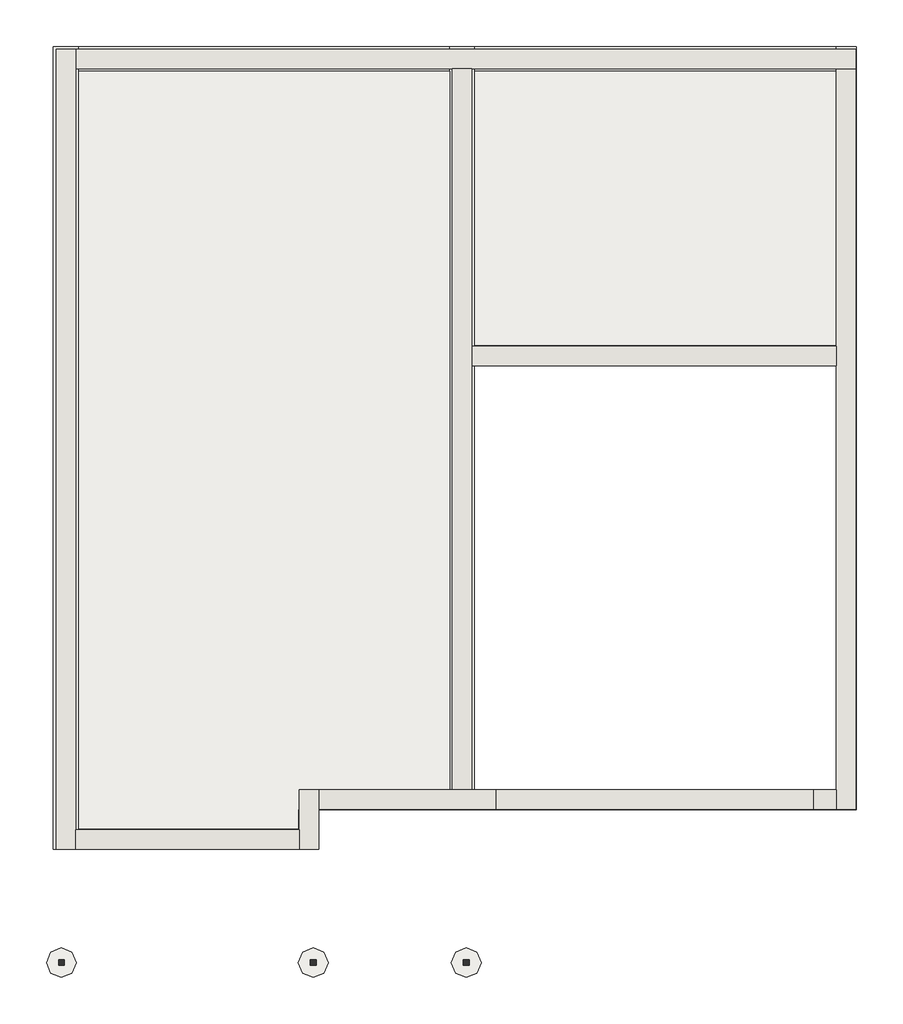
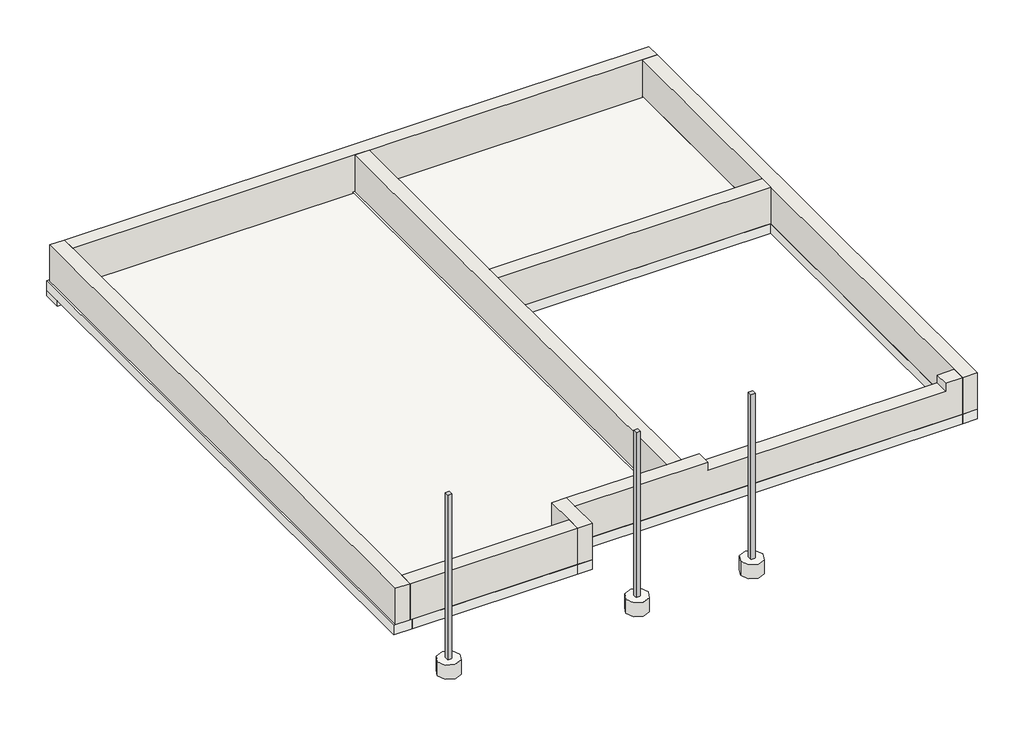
# One storey: 8 footings, 8 walls, 5 slabs, 3 columns.
"""IFC4 building model written with IfcOpenShell, lengths in millimetres."""

from ifc_helpers import new_model, si_unit, frame, origin, place, context, project, spatial, polyline, outline, extrude, faceted_brep, transform, mapped, element, save
from components import rectangular_column_350x350_lgs_51815f61, slab_1e07954e

model = new_model("IFC4")

# Units and contexts
model_context = context("Model", 3, world=origin())
ifc_project = project(units=[si_unit("LENGTHUNIT", "METRE", prefix="MILLI")], contexts=[model_context])

# Site, building, storey
site = spatial("IfcSite", under=ifc_project)
building = spatial("IfcBuilding", under=site)
storey = spatial("IfcBuildingStorey", under=building, Name="T.O. Rat Slab", Elevation=-815.975)

# Columns
placement = place(None, origin())
rectangular_column_350x350_lgs_shape = rectangular_column_350x350_lgs_51815f61(model_context)
element("IfcColumn", 1, ObjectType="Rectangular Column : 350x350 LGS", at=placement, inside=storey, context=model_context, shape_type="MappedRepresentation", body=[
    mapped(rectangular_column_350x350_lgs_shape, transform((-15219.4913349, 35.052221, 0.0), x_axis=(1.0, 0.0, 0.0), y_axis=(0.0, 1.0, 0.0), z_axis=(0.0, 0.0, 1.0))),
])
element("IfcColumn", 2, ObjectType="Rectangular Column : 350x350 LGS", at=placement, inside=storey, context=model_context, shape_type="MappedRepresentation", body=[
    mapped(rectangular_column_350x350_lgs_shape, transform((-11358.6913349, 35.052221, 0.0), x_axis=(1.0, 0.0, 0.0), y_axis=(0.0, 1.0, 0.0), z_axis=(0.0, 0.0, 1.0))),
])
element("IfcColumn", 3, ObjectType="Rectangular Column : 350x350 LGS", at=placement, inside=storey, context=model_context, shape_type="MappedRepresentation", body=[
    mapped(rectangular_column_350x350_lgs_shape, transform((-9009.1913349, 35.052221, 0.0), x_axis=(1.0, 0.0, 0.0), y_axis=(0.0, 1.0, 0.0), z_axis=(0.0, 0.0, 1.0))),
])

# Footings
element("IfcFooting", 4, ObjectType="FTG_12x8_01", at=placement, inside=storey, context=model_context, shape_type="Brep", body=[
    faceted_brep([(-3030.6663349, 2381.377221, -815.975), (-3030.6663349, 14084.427221, -815.975), (-3335.4663349, 14084.427221, -815.975), (-3335.4663349, 13703.427221, -815.975), (-3335.4663349, 9493.377221, -815.975), (-3335.4663349, 9188.577221, -815.975), (-3335.4663349, 2686.177221, -815.975), (-3335.4663349, 2381.377221, -815.975), (-3030.6663349, 2381.377221, -1019.175), (-3030.6663349, 13703.427221, -1019.175), (-3030.6663349, 13703.427221, -937.5185028), (-3030.6663349, 14084.427221, -937.5185028), (-3335.4663349, 2381.377221, -1019.175), (-3335.4663349, 2686.177221, -1019.175), (-3335.4663349, 9188.577221, -1019.175), (-3335.4663349, 9493.377221, -1019.175), (-3335.4663349, 13703.427221, -1019.175), (-3335.4663349, 14084.427221, -937.5185028), (-3335.4663349, 13703.427221, -937.5185028)], [[[0, 1, 2, 3, 4, 5, 6, 7]], [[1, 0, 8, 9, 10, 11]], [[8, 12, 13, 14, 15, 16, 9]], [[7, 6, 5, 4, 3, 2, 17, 18, 16, 15, 14, 13, 12]], [[2, 1, 11, 17]], [[10, 18, 17, 11]], [[18, 10, 9, 16]], [[0, 7, 12, 8]]]),
])
element("IfcFooting", 5, ObjectType="FTG_12x8_01", at=placement, inside=storey, context=model_context, shape_type="Brep", body=[
    faceted_brep([(-11577.7663349, 2381.377221, -815.975), (-11272.9663349, 2381.377221, -815.975), (-3335.4663349, 2381.377221, -815.975), (-3335.4663349, 2686.177221, -815.975), (-8885.3663349, 2686.177221, -815.975), (-9266.3663349, 2686.177221, -815.975), (-11577.7663349, 2686.177221, -815.975), (-11577.7663349, 2381.377221, -892.175), (-11577.7663349, 2381.377221, -1019.175), (-11272.9663349, 2381.377221, -1019.175), (-3335.4663349, 2381.377221, -1019.175), (-11577.7663349, 2686.177221, -1019.175), (-9266.3663349, 2686.177221, -1019.175), (-8885.3663349, 2686.177221, -1019.175), (-3335.4663349, 2686.177221, -1019.175), (-11577.7663349, 2686.177221, -892.175)], [[[0, 1, 2, 3, 4, 5, 6]], [[2, 1, 0, 7, 8, 9, 10]], [[10, 9, 8, 11, 12, 13, 14]], [[14, 13, 12, 11, 15, 6, 5, 4, 3]], [[3, 2, 10, 14]], [[0, 6, 15, 11, 8, 7]]]),
])
element("IfcFooting", 6, ObjectType="FTG_12x8_01", at=placement, inside=storey, context=model_context, shape_type="Brep", body=[
    faceted_brep([(-11272.9663349, 1771.777221, -815.975), (-11272.9663349, 2381.377221, -815.975), (-11577.7663349, 2381.377221, -815.975), (-11577.7663349, 2076.577221, -815.975), (-11577.7663349, 1771.777221, -815.975), (-11272.9663349, 1771.777221, -1019.175), (-11272.9663349, 2381.377221, -1019.175), (-11577.7663349, 1771.777221, -1019.175), (-11577.7663349, 2076.577221, -1019.175), (-11577.7663349, 2381.377221, -1019.175), (-11577.7663349, 2381.377221, -892.175)], [[[0, 1, 2, 3, 4]], [[1, 0, 5, 6]], [[6, 5, 7, 8, 9]], [[9, 8, 7, 4, 3, 2, 10]], [[2, 1, 6, 9, 10]], [[0, 4, 7, 5]]]),
])
element("IfcFooting", 7, ObjectType="FTG_12x8_01", at=placement, inside=storey, context=model_context, shape_type="Brep", body=[
    faceted_brep([(-14962.3163349, 2076.577221, -815.975), (-14962.3163349, 1771.777221, -815.975), (-11577.7663349, 1771.777221, -815.975), (-11577.7663349, 2076.577221, -815.975), (-14962.3163349, 1771.777221, -1019.175), (-11577.7663349, 1771.777221, -1019.175), (-14962.3163349, 2076.577221, -1019.175), (-11577.7663349, 2076.577221, -1019.175), (-14962.3163349, 2076.577221, -892.175), (-11577.7663349, 2076.577221, -892.175)], [[[0, 1, 2, 3]], [[1, 4, 5, 2]], [[4, 6, 7, 5]], [[6, 8, 0, 3, 9, 7]], [[1, 0, 8, 6, 4]], [[3, 2, 5, 7, 9]]]),
])
element("IfcFooting", 8, ObjectType="FTG_12x8_01", at=placement, inside=storey, context=model_context, shape_type="Brep", body=[
    faceted_brep([(-8885.3663349, 9188.577221, -815.975), (-3335.4663349, 9188.577221, -815.975), (-3335.4663349, 9493.377221, -815.975), (-8885.3663349, 9493.377221, -815.975), (-8885.3663349, 9493.377221, -1019.175), (-8885.3663349, 9493.377221, -892.175), (-3335.4663349, 9493.377221, -892.175), (-3335.4663349, 9493.377221, -1019.175), (-8885.3663349, 9188.577221, -1019.175), (-3335.4663349, 9188.577221, -1019.175)], [[[0, 1, 2, 3]], [[4, 5, 3, 2, 6, 7]], [[8, 4, 7, 9]], [[0, 8, 9, 1]], [[0, 3, 5, 4, 8]], [[2, 1, 9, 7, 6]]]),
])
element("IfcFooting", 9, ObjectType="FTG_15x8_01", at=placement, inside=storey, context=model_context, shape_type="Brep", body=[
    faceted_brep([(-14962.3163349, 1771.777221, -815.975), (-14962.3163349, 2076.577221, -815.975), (-14962.3163349, 13703.427221, -815.975), (-14962.3163349, 14084.427221, -815.975), (-15343.3163349, 14084.427221, -815.975), (-15343.3163349, 1771.777221, -815.975), (-15343.3163349, 1771.777221, -1019.175), (-15343.3163349, 14084.427221, -1019.175), (-15343.3163349, 13703.427221, -1019.175), (-14962.3163349, 1771.777221, -1019.175), (-14962.3163349, 14084.427221, -1019.175), (-14962.3163349, 13703.427221, -1019.175), (-14962.3163349, 2076.577221, -1019.175), (-14962.3163349, 14084.427221, -937.5185028)], [[[0, 1, 2, 3, 4, 5]], [[6, 5, 4, 7, 8]], [[9, 6, 8, 7, 10, 11, 12]], [[0, 9, 12, 11, 10, 13, 3, 2, 1]], [[4, 3, 13, 10, 7]], [[0, 5, 6, 9]]]),
])
element("IfcFooting", 10, ObjectType="FTG_15x8_01", at=placement, inside=storey, context=model_context, shape_type="Brep", body=[
    faceted_brep([(-3030.6663349, 13703.427221, -937.5185028), (-3030.6663349, 14084.427221, -937.5185028), (-3335.4663349, 14084.427221, -937.5185028), (-8885.3663349, 14084.427221, -937.5185028), (-9266.3663349, 14084.427221, -937.5185028), (-14962.3163349, 14084.427221, -937.5185028), (-14962.3163349, 13703.427221, -937.5185028), (-9266.3663349, 13703.427221, -937.5185028), (-8885.3663349, 13703.427221, -937.5185028), (-3335.4663349, 13703.427221, -937.5185028), (-3030.6663349, 14084.427221, -1140.7185028), (-15343.3163349, 14084.427221, -1140.7185028), (-15343.3163349, 14084.427221, -1019.175), (-14962.3163349, 14084.427221, -1019.175), (-3030.6663349, 13703.427221, -1140.7185028), (-15343.3163349, 13703.427221, -1140.7185028), (-3030.6663349, 13703.427221, -1019.175), (-14962.3163349, 13703.427221, -1019.175), (-15343.3163349, 13703.427221, -1019.175)], [[[0, 1, 2, 3, 4, 5, 6, 7, 8, 9]], [[10, 11, 12, 13, 5, 4, 3, 2, 1]], [[11, 10, 14, 15]], [[15, 14, 16, 0, 9, 8, 7, 6, 17, 18]], [[11, 15, 18, 12]], [[17, 13, 12, 18]], [[13, 17, 6, 5]], [[1, 0, 16, 14, 10]]]),
])
element("IfcFooting", 11, ObjectType="FTG_15x8_01", at=placement, inside=storey, context=model_context, shape_type="Brep", body=[
    faceted_brep([(-9266.3663349, 14084.427221, -815.975), (-9266.3663349, 13703.427221, -815.975), (-9266.3663349, 2686.177221, -815.975), (-8885.3663349, 2686.177221, -815.975), (-8885.3663349, 9188.577221, -815.975), (-8885.3663349, 9493.377221, -815.975), (-8885.3663349, 13703.427221, -815.975), (-8885.3663349, 14084.427221, -815.975), (-9266.3663349, 14084.427221, -937.5185028), (-9266.3663349, 13703.427221, -937.5185028), (-9266.3663349, 13703.427221, -1019.175), (-9266.3663349, 2686.177221, -1019.175), (-9266.3663349, 2686.177221, -892.175), (-8885.3663349, 2686.177221, -1019.175), (-8885.3663349, 13703.427221, -1019.175), (-8885.3663349, 9493.377221, -1019.175), (-8885.3663349, 9188.577221, -1019.175), (-8885.3663349, 13703.427221, -937.5185028), (-8885.3663349, 14084.427221, -937.5185028)], [[[0, 1, 2, 3, 4, 5, 6, 7]], [[2, 1, 0, 8, 9, 10, 11, 12]], [[13, 11, 10, 14, 15, 16]], [[7, 6, 5, 4, 3, 13, 16, 15, 14, 17, 18]], [[3, 2, 12, 11, 13]], [[0, 7, 18, 8]], [[17, 9, 8, 18]], [[9, 17, 14, 10]]]),
])

# Slabs
slab_shape = slab_1e07954e(model_context)
element("IfcSlab", 12, ObjectType="18\" d x 12\" deep footing : 18\" d x 12\" deep footing", at=placement, inside=storey, context=model_context, shape_type="MappedRepresentation", body=[
    mapped(slab_shape, transform((44.45, 732.63125, 0.0), x_axis=(1.0, 0.0, 0.0), y_axis=(0.0, 1.0, 0.0), z_axis=(0.0, 0.0, 1.0))),
])
element("IfcSlab", 13, ObjectType="18\" d x 12\" deep footing1 : 18\" d x 12\" deep footing", at=placement, inside=storey, context=model_context, shape_type="MappedRepresentation", body=[
    mapped(slab_shape, transform((3905.25, 732.63125, 0.0), x_axis=(1.0, 0.0, 0.0), y_axis=(0.0, 1.0, 0.0), z_axis=(0.0, 0.0, 1.0))),
])
element("IfcSlab", 14, ObjectType="18\" d x 12\" deep footing2 : 18\" d x 12\" deep footing", at=placement, inside=storey, context=model_context, shape_type="MappedRepresentation", body=[
    mapped(slab_shape, transform((6254.75, 732.63125, 0.0), x_axis=(1.0, 0.0, 0.0), y_axis=(0.0, 1.0, 0.0), z_axis=(0.0, 0.0, 1.0))),
])
element("IfcSlab", 15, ObjectType="3\" Foundation Slab", at=placement, inside=storey, context=model_context, shape_type="Brep", body=[
    faceted_brep([(-14962.3163349, 13703.427221, -892.175), (-9266.3663349, 13703.427221, -892.175), (-9266.3663349, 2686.177221, -892.175), (-11577.7663349, 2686.177221, -892.175), (-11577.7663349, 2076.577221, -892.175), (-14962.3163349, 2076.577221, -892.175), (-14962.3163349, 13703.427221, -815.975), (-14962.3163349, 2076.577221, -815.975), (-11577.7663349, 2076.577221, -815.975), (-11577.7663349, 2381.377221, -815.975), (-11577.7663349, 2686.177221, -815.975), (-9266.3663349, 2686.177221, -815.975), (-9266.3663349, 13703.427221, -815.975)], [[[0, 1, 2, 3, 4, 5]], [[6, 7, 8, 9, 10, 11, 12]], [[1, 0, 6, 12]], [[2, 1, 12, 11]], [[3, 2, 11, 10]], [[4, 3, 10, 9, 8]], [[5, 4, 8, 7]], [[0, 5, 7, 6]]]),
])
element("IfcSlab", 16, ObjectType="3\" Foundation Slab", at=placement, inside=storey, context=model_context, shape_type="SweptSolid", body=[
    extrude(outline(polyline([(-8885.3663349, 13703.427221), (-3335.4663349, 13703.427221), (-3335.4663349, 9493.377221), (-8885.3663349, 9493.377221), (-8885.3663349, 13703.427221)])), frame((0.0, 0.0, -892.175), z_axis=(0.0, 0.0, 1.0), x_axis=(1.0, 0.0, 0.0)), (0.0, 0.0, 1.0), 76.2),
])

# Walls
element("IfcWall", 17, ObjectType="FND_625 ICF_01", at=placement, inside=storey, context=model_context, shape_type="Brep", body=[
    faceted_brep([(-15003.5913349, 1774.952221, -815.975), (-15003.5913349, 2073.402221, -815.975), (-15003.5913349, 14043.152221, -815.975), (-15003.5913349, 14043.152221, -28.575), (-15003.5913349, 13744.702221, -28.575), (-15003.5913349, 2073.402221, -28.575), (-15003.5913349, 1774.952221, -28.575), (-15302.0413349, 1774.952221, -815.975), (-15302.0413349, 1774.952221, -28.575), (-15302.0413349, 14043.152221, -28.575), (-15302.0413349, 14043.152221, -815.975)], [[[0, 1, 2, 3, 4, 5, 6]], [[7, 8, 9, 10]], [[2, 1, 0, 7, 10]], [[6, 5, 4, 3, 9, 8]], [[0, 6, 8, 7]], [[3, 2, 10, 9]]]),
])
element("IfcWall", 18, ObjectType="FND_625 ICF_01", at=placement, inside=storey, context=model_context, shape_type="Brep", body=[
    faceted_brep([(-15003.5913349, 13744.702221, -937.5185028), (-3033.8413349, 13744.702221, -937.5185028), (-3033.8413349, 13744.702221, -815.975), (-3033.8413349, 13744.702221, -28.575), (-3332.2913349, 13744.702221, -28.575), (-8926.6413349, 13744.702221, -28.575), (-9225.0913349, 13744.702221, -28.575), (-15003.5913349, 13744.702221, -28.575), (-15003.5913349, 14043.152221, -937.5185028), (-15003.5913349, 14043.152221, -815.975), (-15003.5913349, 14043.152221, -28.575), (-3033.8413349, 14043.152221, -28.575), (-3033.8413349, 14043.152221, -937.5185028)], [[[0, 1, 2, 3, 4, 5, 6, 7]], [[8, 9, 10, 11, 12]], [[1, 0, 8, 12]], [[7, 6, 5, 4, 3, 11, 10]], [[3, 2, 1, 12, 11]], [[0, 7, 10, 9, 8]]]),
])
element("IfcWall", 19, ObjectType="FND_625 ICF_01", at=placement, inside=storey, context=model_context, shape_type="Brep", body=[
    faceted_brep([(-3332.2913349, 13744.702221, -815.975), (-3332.2913349, 9490.202221, -815.975), (-3332.2913349, 9191.752221, -815.975), (-3332.2913349, 2683.002221, -815.975), (-3332.2913349, 2384.552221, -815.975), (-3332.2913349, 2384.552221, -28.575), (-3332.2913349, 2683.002221, -28.575), (-3332.2913349, 9191.752221, -28.575), (-3332.2913349, 9490.202221, -28.575), (-3332.2913349, 13744.702221, -28.575), (-3033.8413349, 13744.702221, -815.975), (-3033.8413349, 13744.702221, -28.575), (-3033.8413349, 2384.552221, -28.575), (-3033.8413349, 2384.552221, -815.975)], [[[0, 1, 2, 3, 4, 5, 6, 7, 8, 9]], [[10, 11, 12, 13]], [[4, 3, 2, 1, 0, 10, 13]], [[9, 8, 7, 6, 5, 12, 11]], [[0, 9, 11, 10]], [[5, 4, 13, 12]]]),
])
element("IfcWall", 20, ObjectType="FND_625 ICF_01", at=placement, inside=storey, context=model_context, shape_type="Brep", body=[
    faceted_brep([(-3332.2913349, 2683.002221, -815.975), (-8926.6413349, 2683.002221, -815.975), (-9225.0913349, 2683.002221, -815.975), (-11276.1413349, 2683.002221, -815.975), (-11276.1413349, 2683.002221, -28.575), (-9225.0913349, 2683.002221, -28.575), (-8926.6413349, 2683.002221, -28.575), (-8558.3413349, 2683.002221, -28.575), (-8558.3413349, 2683.002221, -196.9615666), (-3681.5413349, 2683.002221, -196.9615666), (-3681.5413349, 2683.002221, -28.575), (-3332.2913349, 2683.002221, -28.575), (-11276.1413349, 2384.552221, -815.975), (-3332.2913349, 2384.552221, -815.975), (-3332.2913349, 2384.552221, -28.575), (-3681.5413349, 2384.552221, -28.575), (-3681.5413349, 2384.552221, -196.9615666), (-8558.3413349, 2384.552221, -196.9615666), (-8558.3413349, 2384.552221, -28.575), (-11276.1413349, 2384.552221, -28.575)], [[[0, 1, 2, 3, 4, 5, 6, 7, 8, 9, 10, 11]], [[12, 13, 14, 15, 16, 17, 18, 19]], [[3, 2, 1, 0, 13, 12]], [[14, 11, 10, 15]], [[4, 19, 18, 7, 6, 5]], [[0, 11, 14, 13]], [[4, 3, 12, 19]], [[17, 8, 7, 18]], [[9, 16, 15, 10]], [[8, 17, 16, 9]]]),
])
element("IfcWall", 21, ObjectType="FND_625 ICF_01", at=placement, inside=storey, context=model_context, shape_type="Brep", body=[
    faceted_brep([(-11574.5913349, 2683.002221, -815.975), (-11574.5913349, 2073.402221, -815.975), (-11574.5913349, 1774.952221, -815.975), (-11574.5913349, 1774.952221, -28.575), (-11574.5913349, 2073.402221, -28.575), (-11574.5913349, 2683.002221, -28.575), (-11276.1413349, 2683.002221, -815.975), (-11276.1413349, 2683.002221, -28.575), (-11276.1413349, 2384.552221, -28.575), (-11276.1413349, 1774.952221, -28.575), (-11276.1413349, 1774.952221, -815.975), (-11276.1413349, 2384.552221, -815.975)], [[[0, 1, 2, 3, 4, 5]], [[6, 7, 8, 9, 10, 11]], [[2, 1, 0, 6, 11, 10]], [[5, 4, 3, 9, 8, 7]], [[0, 5, 7, 6]], [[3, 2, 10, 9]]]),
])
element("IfcWall", 22, ObjectType="FND_625 ICF_01", at=placement, inside=storey, context=model_context, shape_type="SweptSolid", body=[
    extrude(outline(polyline([(-15003.5913349, 2073.402221), (-11574.5913349, 2073.402221), (-11574.5913349, 1774.952221), (-15003.5913349, 1774.952221), (-15003.5913349, 2073.402221)])), frame((0.0, 0.0, -815.975), z_axis=(0.0, 0.0, 1.0), x_axis=(1.0, 0.0, 0.0)), (0.0, 0.0, 1.0), 787.4),
])
element("IfcWall", 23, ObjectType="FND_625 ICF_01", at=placement, inside=storey, context=model_context, shape_type="Brep", body=[
    faceted_brep([(-8926.6413349, 2683.002221, -815.975), (-8926.6413349, 9191.752221, -815.975), (-8926.6413349, 9490.202221, -815.975), (-8926.6413349, 13744.702221, -815.975), (-8926.6413349, 13744.702221, -28.575), (-8926.6413349, 9490.202221, -28.575), (-8926.6413349, 9191.752221, -28.575), (-8926.6413349, 2683.002221, -28.575), (-9225.0913349, 2683.002221, -815.975), (-9225.0913349, 2683.002221, -28.575), (-9225.0913349, 13744.702221, -28.575), (-9225.0913349, 13744.702221, -815.975)], [[[0, 1, 2, 3, 4, 5, 6, 7]], [[8, 9, 10, 11]], [[3, 2, 1, 0, 8, 11]], [[7, 6, 5, 4, 10, 9]], [[0, 7, 9, 8]], [[4, 3, 11, 10]]]),
])
element("IfcWall", 24, ObjectType="FND_625 ICF_01", at=placement, inside=storey, context=model_context, shape_type="SweptSolid", body=[
    extrude(outline(polyline([(-3332.2913349, 9191.752221), (-8926.6413349, 9191.752221), (-8926.6413349, 9490.202221), (-3332.2913349, 9490.202221), (-3332.2913349, 9191.752221)])), frame((0.0, 0.0, -815.975), z_axis=(0.0, 0.0, 1.0), x_axis=(1.0, 0.0, 0.0)), (0.0, 0.0, 1.0), 787.4),
])

save(model, "model.ifc")
